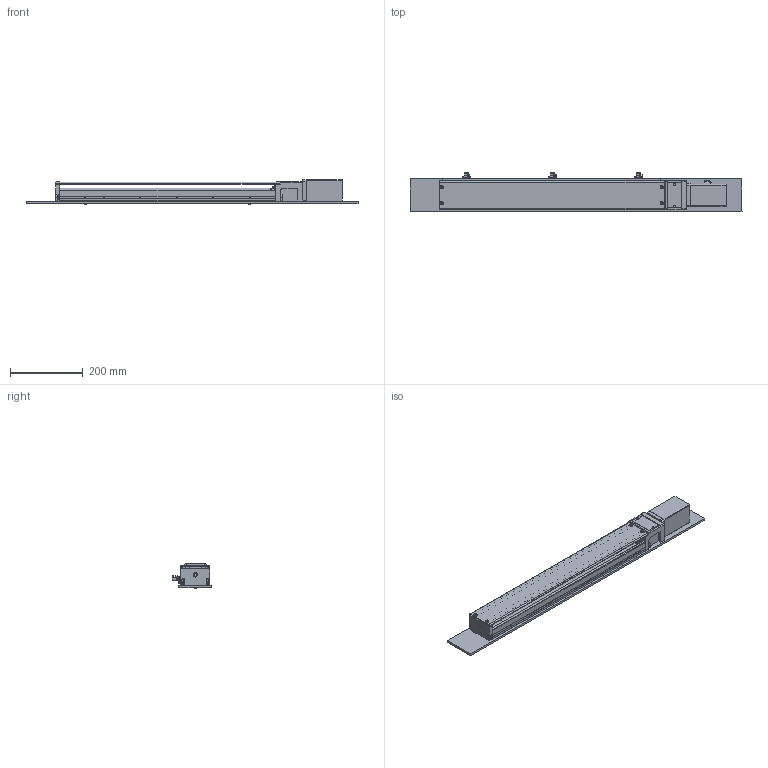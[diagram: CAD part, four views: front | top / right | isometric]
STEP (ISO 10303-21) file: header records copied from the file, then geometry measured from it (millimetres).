
FILE_DESCRIPTION (( 'STEP AP214' ), '1' );
FILE_NAME ('13_X-Y_chip_transfer_mechanism_Base.STEP', '2021-02-16T02:48:58', ( '' ), ( '' ), 'SwSTEP 2.0', 'SolidWorks 2017', '' );
FILE_SCHEMA (( 'AUTOMOTIVE_DESIGN' ));
Length unit declared in the file: millimetre
Products named in the file (18): 0792_Z_LXM4510C-T3B-D3-3-3-R-590_7; 0792_501_Base; 0792_Z_LXM4510C-T3B-D3-3-3-R-590_6; 0792_005_MSYC5-1005; _0792_SA01; 0792_Z_LXM4510C-T3B-D3-3-3-R-590_4; _0792_Assy; 0792_308_SCB6-10; 0792_Z_LXM4510C-T3B-D3-3-3-R-590_1; 0792_Z_LXM4510C-T3B-D3-3-3-R-590_3; 0792_Z_LXM4510C-T3B-D3-3-3-R-590_10; 0792_Z_LXM4510C-T3B-D3-3-3-R-590_11; 13_X-Y_chip_transfer_mechanism_Base; 0792_001_LXM4510C-T3B-D3-3-3-R-590; 0792_Z_LXM4510C-T3B-D3-3-3-R-590_8; 0792_Z_LXM4510C-T3B-D3-3-3-R-590_5; 0792_Z_LXM4510C-T3B-D3-3-3-R-590_2; 0792_Z_LXM4510C-T3B-D3-3-3-R-590_12
Assembly tree (24 placements, depth 5):
  13_X-Y_chip_transfer_mechanism_Base
    0792_501_Base
    _0792_Assy
      _0792_SA01
        0792_001_LXM4510C-T3B-D3-3-3-R-590
          0792_Z_LXM4510C-T3B-D3-3-3-R-590_1
          0792_Z_LXM4510C-T3B-D3-3-3-R-590_2
          0792_Z_LXM4510C-T3B-D3-3-3-R-590_3
          0792_Z_LXM4510C-T3B-D3-3-3-R-590_4
          0792_Z_LXM4510C-T3B-D3-3-3-R-590_5  x2
          0792_Z_LXM4510C-T3B-D3-3-3-R-590_6
          0792_Z_LXM4510C-T3B-D3-3-3-R-590_7  x3
          0792_Z_LXM4510C-T3B-D3-3-3-R-590_8
          0792_Z_LXM4510C-T3B-D3-3-3-R-590_10
          0792_Z_LXM4510C-T3B-D3-3-3-R-590_11  x4
          0792_Z_LXM4510C-T3B-D3-3-3-R-590_12
        0792_005_MSYC5-1005  x2
        0792_308_SCB6-10
Bounding box: 910 x 107.38 x 66.5 mm (x, y, z)
Volume: 2207365.6 mm3; surface area: 619969.3 mm2
Topology: 21 solids, 21 shells, 1984 faces, 5048 edges, 3235 vertices
Faces by surface type: plane 857, cylinder 616, cone 500, torus 9, bspline 2
Entity records: 66536 total; most frequent: CARTESIAN_POINT 15269, DIRECTION 7219, ORIENTED_EDGE 7200, EDGE_CURVE 3600, AXIS2_PLACEMENT_3D 2661, VERTEX_POINT 2319, VECTOR 1897, LINE 1897
